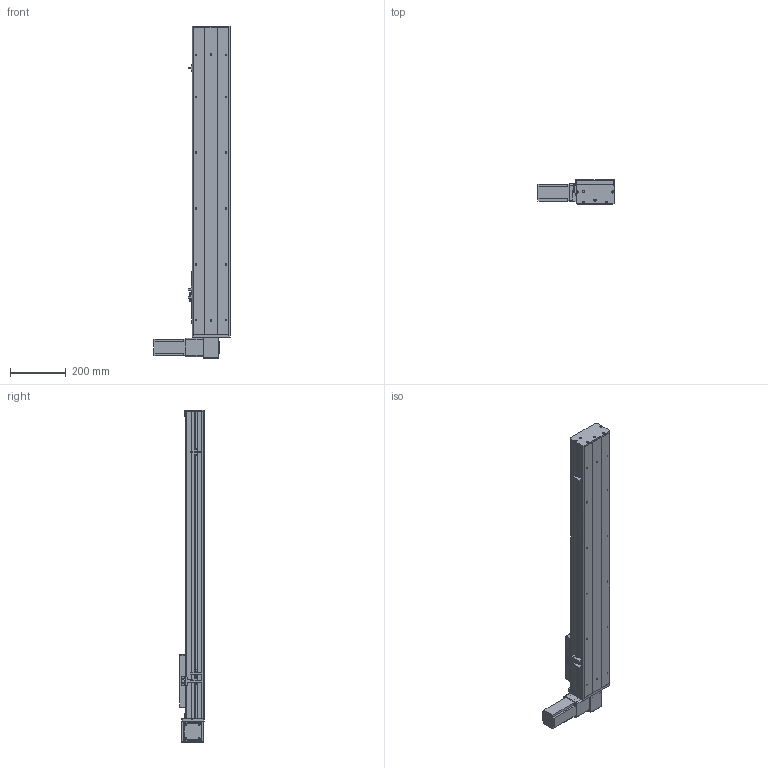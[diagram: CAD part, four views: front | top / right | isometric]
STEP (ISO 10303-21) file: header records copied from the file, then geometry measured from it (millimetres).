
FILE_DESCRIPTION (( 'STEP AP203' ), '1' );
FILE_NAME ('Y135CB-D90-S800-BD-P400W.STEP', '2020-02-19T03:19:42', ( '微软用户' ), ( '微软中国' ), 'SwSTEP 2.0', 'SolidWorks 2017', '' );
FILE_SCHEMA (( 'CONFIG_CONTROL_DESIGN' ));
Length unit declared in the file: millimetre
Products named in the file (16): 5C--俋欶; 0B-埴倛裔啣; C-雄赽釱--; 0B-源倛裔啣; Y10B--々湍喘謫眊--666; san松下电机400不带刹车----; 0B-薊粣ん眊; 5CB --掛极耜裔啣-; Y135CB-D90-S800-BD-P400W; C-詩湍揤踡え-陔; 135CB--詩湍-CE; Y135CB-耜裔; Y100-135俋离換覜ん--; 135CB---遴掛极.-; Y135C-陔俋离換覜結え-; 35CB---喘謫眊楊擘啣
Assembly tree (19 placements, depth 2):
  Y135CB-D90-S800-BD-P400W
    Y135CB-耜裔
    135CB---遴掛极.-
    35CB---喘謫眊楊擘啣
    0B-埴倛裔啣
    0B-源倛裔啣
    san松下电机400不带刹车----
    5CB --掛极耜裔啣-  x2
    C-詩湍揤踡え-陔  x2
    135CB--詩湍-CE
    Y100-135俋离換覜ん--  x3
    Y135C-陔俋离換覜結え-
    5C--俋欶
    C-雄赽釱--
    Y10B--々湍喘謫眊--666
    0B-薊粣ん眊
Bounding box: 272 x 91 x 1188 mm (x, y, z)
Volume: 3867410.1 mm3; surface area: 1463993 mm2
Topology: 19 solids, 19 shells, 851 faces, 2248 edges, 1488 vertices
Faces by surface type: cylinder 420, plane 415, cone 16
Entity records: 25804 total; most frequent: DIRECTION 4300, CARTESIAN_POINT 4203, ORIENTED_EDGE 3972, EDGE_CURVE 1986, AXIS2_PLACEMENT_3D 1573, VERTEX_POINT 1316, LINE 1154, VECTOR 1154
